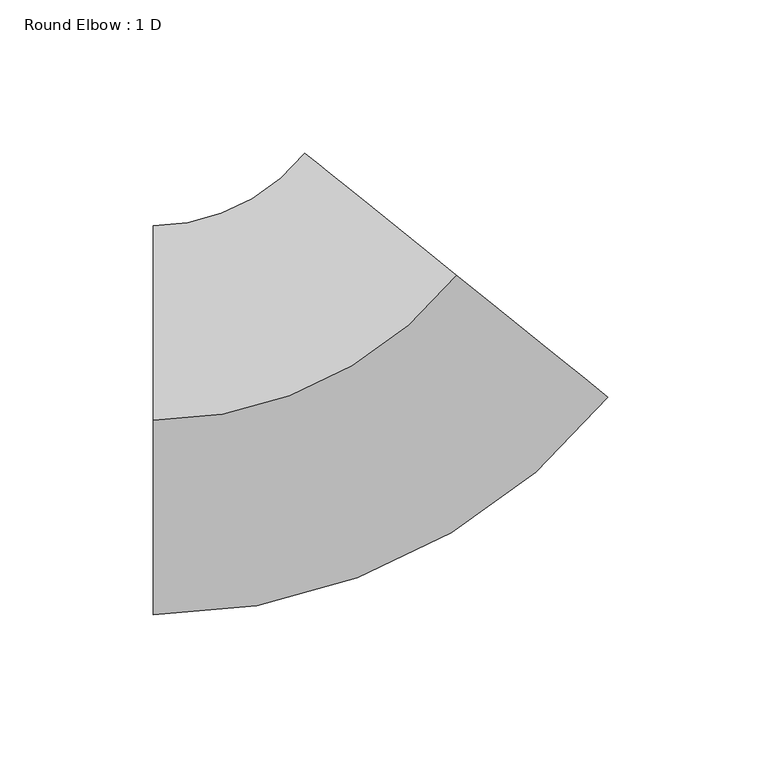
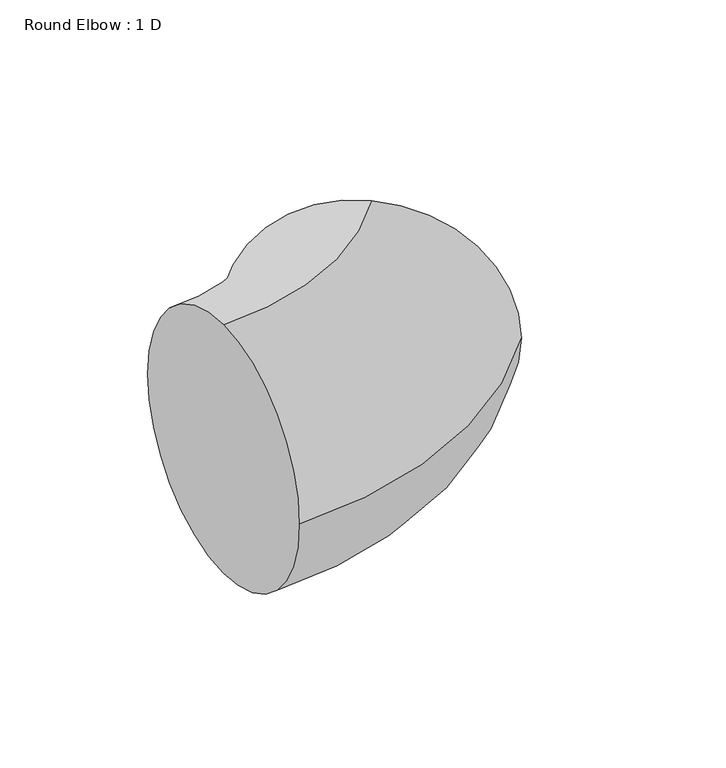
"""IFC4 building model written with IfcOpenShell, lengths in millimetres: duct fitting geometry, Round Elbow : 1 D."""

from ifc_helpers import new_model, si_unit, point, frame, origin, place, context, project, spatial, circle_curve, ellipse_curve, trimmed, source, transform, mapped, element, save
from ifc_brep_helpers import plane_surface, revolved_surface, advanced_brep


def round_elbow_1_d_45990e82(model_context):
    return source(origin(), model_context, "Body", "AdvancedBrep", [
        advanced_brep(
        [(-60.8274116, 0.0, 63.5), (-60.8274116, 63.5, 0.0), (-60.8274116, 0.0, -63.5), (-60.8274116, -63.5, 0.0), (38.1273121, 47.3949583, 63.5), (87.6046739, 7.5924374, 0.0), (38.1273121, 47.3949583, -63.5), (-11.3500497, 87.1974791, 0.0)],
        [
            (0, 1, circle_curve(frame((-60.8274116, 0.0, 0.0), z_axis=(-1.0, 0.0, 0.0), x_axis=(0.0, 1.0, 0.0)), 63.5)),
            (1, 2, circle_curve(frame((-60.8274116, 0.0, 0.0), z_axis=(-1.0, 0.0, 0.0), x_axis=(0.0, 1.0, 0.0)), 63.5)),
            (2, 3, circle_curve(frame((-60.8274116, 0.0, 0.0), z_axis=(-1.0, 0.0, 0.0), x_axis=(0.0, 1.0, 0.0)), 63.5)),
            (3, 0, circle_curve(frame((-60.8274116, 0.0, 0.0), z_axis=(-1.0, 0.0, 0.0), x_axis=(0.0, 1.0, 0.0)), 63.5)),
            (4, 5, circle_curve(frame((38.1273121, 47.3949583, 0.0), z_axis=(0.6268113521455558, 0.7791710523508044, 0.0), x_axis=(-0.7791710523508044, 0.6268113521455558, 0.0)), 63.5)),
            (5, 6, circle_curve(frame((38.1273121, 47.3949583, 0.0), z_axis=(0.6268113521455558, 0.7791710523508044, 0.0), x_axis=(-0.7791710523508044, 0.6268113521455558, 0.0)), 63.5)),
            (6, 7, circle_curve(frame((38.1273121, 47.3949583, 0.0), z_axis=(0.6268113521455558, 0.7791710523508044, 0.0), x_axis=(-0.7791710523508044, 0.6268113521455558, 0.0)), 63.5)),
            (7, 4, circle_curve(frame((38.1273121, 47.3949583, 0.0), z_axis=(0.6268113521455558, 0.7791710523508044, 0.0), x_axis=(-0.7791710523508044, 0.6268113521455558, 0.0)), 63.5)),
            (7, 1, circle_curve(frame((-60.8274116, 127.0, 0.0), z_axis=(0.0, 0.0, -1.0), x_axis=(0.0, -1.0, 0.0)), 63.5)),
            (0, 4, circle_curve(frame((-60.8274116, 127.0, 63.5), z_axis=(0.0, 0.0, 1.0), x_axis=(0.0, -1.0, 0.0)), 127.0)),
            (6, 2, circle_curve(frame((-60.8274116, 127.0, -63.5), z_axis=(0.0, 0.0, -1.0), x_axis=(0.0, -1.0, 0.0)), 127.0)),
            (5, 3, circle_curve(frame((-60.8274116, 127.0, 0.0), z_axis=(0.0, 0.0, -1.0), x_axis=(0.0, -1.0, 0.0)), 190.5)),
        ],
        [
            plane_surface(frame((-60.8274116, 0.0, 0.0), z_axis=(-1.0, 0.0, 0.0), x_axis=(0.0, 0.0, 1.0))),
            plane_surface(frame((38.1273121, 47.3949583, 0.0), z_axis=(0.6268113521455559, 0.7791710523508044, 0.0), x_axis=(0.0, 0.0, 1.0))),
            revolved_surface(trimmed(ellipse_curve(frame((-60.8274116, 0.0, 0.0), z_axis=(-1.0, 0.0, 0.0), x_axis=(0.0, 1.0, 0.0)), 63.5, 63.5), [point((-60.8274116, 0.0, 63.5))], [point((-60.8274116, 63.5, 0.0))], True, "CARTESIAN"), (-60.8274116, 127.0, 0.0), (0.0, 0.0, 1.0)),
            revolved_surface(trimmed(ellipse_curve(frame((-60.8274116, 0.0, 0.0), z_axis=(-1.0, 0.0, 0.0), x_axis=(0.0, 1.0, 0.0)), 63.5, 63.5), [point((-60.8274116, 63.5, 0.0))], [point((-60.8274116, 0.0, -63.5))], True, "CARTESIAN"), (-60.8274116, 127.0, 0.0), (0.0, 0.0, 1.0)),
            revolved_surface(trimmed(ellipse_curve(frame((-60.8274116, 0.0, 0.0), z_axis=(-1.0, 0.0, 0.0), x_axis=(0.0, 1.0, 0.0)), 63.5, 63.5), [point((-60.8274116, 0.0, -63.5))], [point((-60.8274116, -63.5, 0.0))], True, "CARTESIAN"), (-60.8274116, 127.0, 0.0), (0.0, 0.0, 1.0)),
            revolved_surface(trimmed(ellipse_curve(frame((-60.8274116, 0.0, 0.0), z_axis=(-1.0, 0.0, 0.0), x_axis=(0.0, 1.0, 0.0)), 63.5, 63.5), [point((-60.8274116, -63.5, 0.0))], [point((-60.8274116, 0.0, 63.5))], True, "CARTESIAN"), (-60.8274116, 127.0, 0.0), (0.0, 0.0, 1.0)),
        ],
        [
            (0, [[1, 2, 3, 4]]),
            (1, [[5, 6, 7, 8]]),
            (2, [[9, -1, 10, -8]]),
            (3, [[11, -2, -9, -7]]),
            (4, [[12, -3, -11, -6]]),
            (5, [[-10, -4, -12, -5]]),
        ],
    ),
    ])


if __name__ == "__main__":
    model = new_model("IFC4")
    model_context = context("Model", 3, world=origin())
    ifc_project = project(units=[si_unit("LENGTHUNIT", "METRE", prefix="MILLI")], contexts=[model_context])
    site = spatial("IfcSite", under=ifc_project)
    building = spatial("IfcBuilding", under=site)
    placement = place(None, origin())
    round_elbow_1_d_shape = round_elbow_1_d_45990e82(model_context)
    element("IfcDuctFitting", 1, ObjectType="Round Elbow : 1 D", at=placement, inside=building, context=model_context, shape_type="MappedRepresentation", body=[
        mapped(round_elbow_1_d_shape, transform((0.0, 0.0, 0.0), x_axis=(1.0, 0.0, 0.0), y_axis=(0.0, 1.0, 0.0), z_axis=(0.0, 0.0, 1.0))),
    ])
    save(model, "model.ifc")
